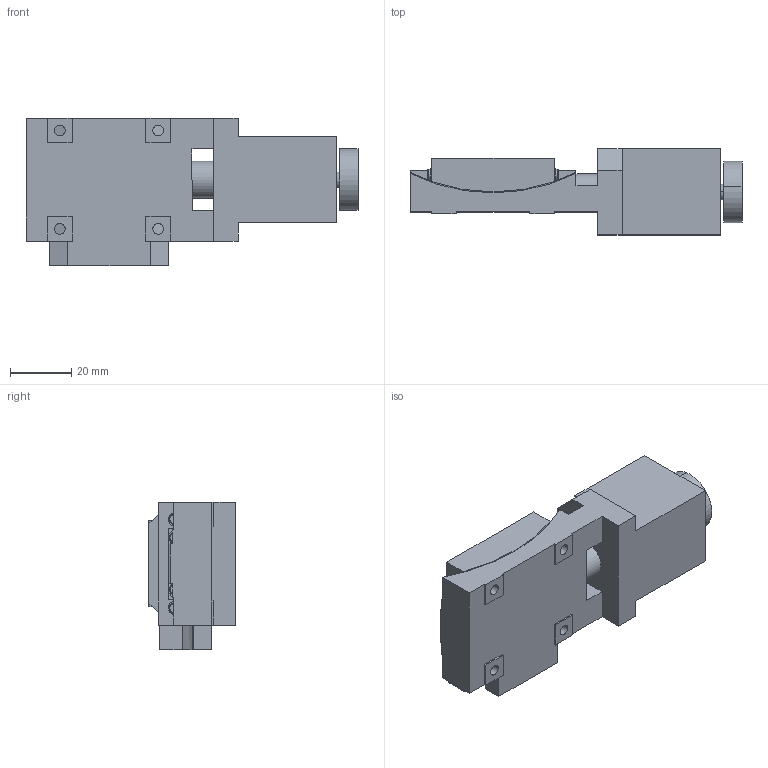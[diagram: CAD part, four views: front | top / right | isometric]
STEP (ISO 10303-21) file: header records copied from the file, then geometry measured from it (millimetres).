
FILE_DESCRIPTION (( 'STEP AP203' ), '1' );
FILE_NAME ('ATS-C416B-HM.STEP', '2013-07-18T01:24:50', ( '' ), ( '' ), 'SwSTEP 2.0', 'SolidWorks 2011', '' );
FILE_SCHEMA (( 'CONFIG_CONTROL_DESIGN' ));
Length unit declared in the file: millimetre
Products named in the file (3): ATS-C416B-HM; ATS-C416B-HM-2; ATS-C416B-HM-1
Assembly tree (2 placements, depth 2):
  ATS-C416B-HM
    ATS-C416B-HM-2
    ATS-C416B-HM-1
Bounding box: 108 x 28 x 48 mm (x, y, z)
Volume: 75542.5 mm3; surface area: 21717.2 mm2
Topology: 2 solids, 2 shells, 220 faces, 548 edges, 352 vertices
Faces by surface type: plane 108, cylinder 90, cone 22
Entity records: 7225 total; most frequent: CARTESIAN_POINT 1527, DIRECTION 1170, ORIENTED_EDGE 1096, EDGE_CURVE 548, AXIS2_PLACEMENT_3D 427, VERTEX_POINT 352, LINE 316, VECTOR 316
